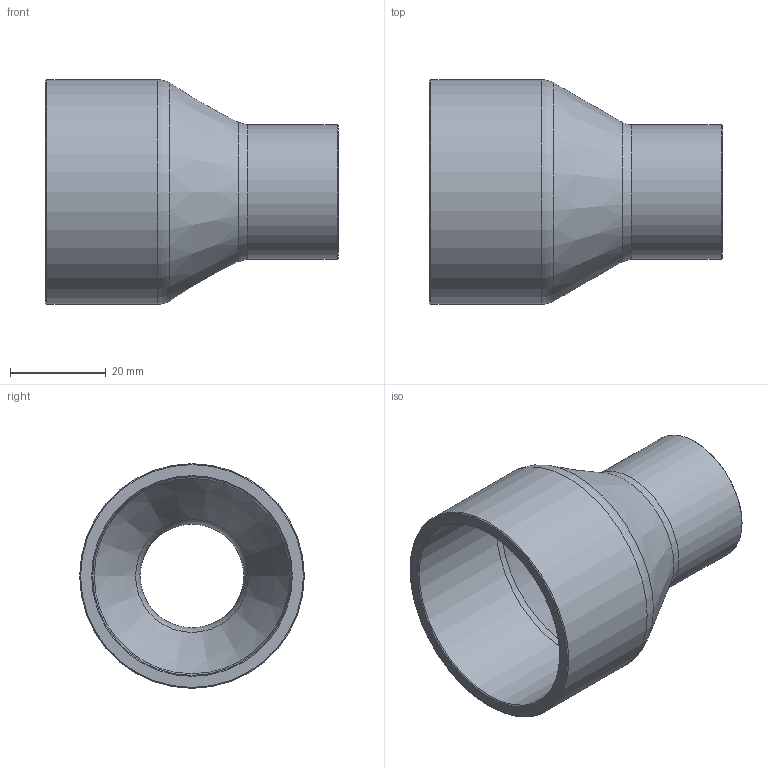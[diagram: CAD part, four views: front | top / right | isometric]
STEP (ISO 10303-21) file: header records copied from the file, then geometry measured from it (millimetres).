
FILE_DESCRIPTION((''),'2;1');
FILE_NAME('G:\SANHA-Ternat\Technik\Management\Bouwmaten + markeringen\z-maattekeningen 3D\29000s\2924015878_3d.stp','2017-08-04T11:49:36',('vdvijverd'),(''),'Autodesk Inventor 2009','Autodesk Inventor 2009','');
FILE_SCHEMA(('AUTOMOTIVE_DESIGN { 1 0 10303 214 1 1 1 1 }'));
Length unit declared in the file: millimetre
Products named in the file (1): 2924015878_3d
Bounding box: 60.9 x 46.85 x 46.85 mm (x, y, z)
Volume: 19728.5 mm3; surface area: 14559.1 mm2
Topology: 1 solids, 1 shells, 17 faces, 32 edges, 17 vertices
Faces by surface type: cone 6, cylinder 4, bspline 3, plane 2, torus 2
Full cylindrical faces by diameter (mm): 22.375 x1, 27.975 x1, 41.455 x1, 46.855 x1
Entity records: 494 total; most frequent: CARTESIAN_POINT 184, DIRECTION 64, ORIENTED_EDGE 34, EDGE_LOOP 34, AXIS2_PLACEMENT_3D 32, VERTEX_POINT 17, CIRCLE 17, EDGE_CURVE 17
